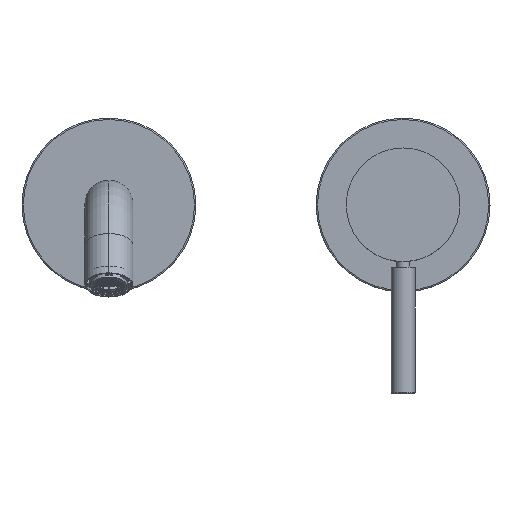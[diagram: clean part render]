
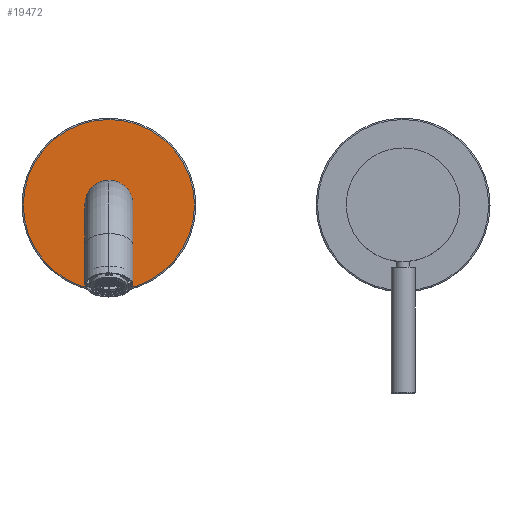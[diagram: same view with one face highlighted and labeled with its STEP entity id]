
A CAD part, top view. The second image highlights one B-rep face of the part: STEP entity #19472.
In plain terms, the highlighted planar face has unit normal (0, 0, 1).
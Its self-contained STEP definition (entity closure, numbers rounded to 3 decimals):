
#7089=CARTESIAN_POINT('',(-110.,0.,15.2));
#7090=DIRECTION('',(0.,0.,-1.));
#7091=DIRECTION('',(0.,-1.,0.));
#7092=AXIS2_PLACEMENT_3D('',#7089,#7090,#7091);
#7103=CARTESIAN_POINT('',(-110.,0.,15.2));
#7104=DIRECTION('',(0.,0.,-1.));
#7105=DIRECTION('',(-1.,0.,0.));
#7106=AXIS2_PLACEMENT_3D('',#7103,#7104,#7105);
#7108=CARTESIAN_POINT('',(-110.,0.,15.2));
#7109=DIRECTION('',(0.,0.,-1.));
#7110=DIRECTION('',(1.,0.,0.));
#7111=AXIS2_PLACEMENT_3D('',#7108,#7109,#7110);
#7113=CARTESIAN_POINT('',(-110.,0.,15.2));
#7114=DIRECTION('',(0.,0.,-1.));
#7115=DIRECTION('',(0.,1.,0.));
#7116=AXIS2_PLACEMENT_3D('',#7113,#7114,#7115);
#7231=CARTESIAN_POINT('',(-142.,0.,15.2));
#7232=CARTESIAN_POINT('',(-78.,0.,15.2));
#7233=VERTEX_POINT('',#7231);
#7234=VERTEX_POINT('',#7232);
#8086=CARTESIAN_POINT('',(-110.,-9.,15.2));
#8087=CARTESIAN_POINT('',(-110.,9.,15.2));
#8088=VERTEX_POINT('',#8086);
#8089=VERTEX_POINT('',#8087);
#19456=CARTESIAN_POINT('',(-110.,0.,15.2));
#19457=DIRECTION('',(0.,0.,1.));
#19458=DIRECTION('',(1.,0.,0.));
#19459=AXIS2_PLACEMENT_3D('',#19456,#19457,#19458);
#19460=PLANE('',#19459);
#19462=ORIENTED_EDGE('',*,*,#19461,.T.);
#19464=ORIENTED_EDGE('',*,*,#19463,.T.);
#19465=EDGE_LOOP('',(#19462,#19464));
#19466=FACE_OUTER_BOUND('',#19465,.F.);
#19467=ORIENTED_EDGE('',*,*,#19439,.F.);
#19469=ORIENTED_EDGE('',*,*,#19468,.F.);
#19470=EDGE_LOOP('',(#19467,#19469));
#19471=FACE_BOUND('',#19470,.F.);
#7093=CIRCLE('',#7092,9.);
#7107=CIRCLE('',#7106,32.);
#7112=CIRCLE('',#7111,32.);
#7117=CIRCLE('',#7116,9.);
#19439=EDGE_CURVE('',#8088,#8089,#7093,.T.);
#19461=EDGE_CURVE('',#7233,#7234,#7107,.T.);
#19463=EDGE_CURVE('',#7234,#7233,#7112,.T.);
#19468=EDGE_CURVE('',#8089,#8088,#7117,.T.);
#19472=ADVANCED_FACE('',(#19466,#19471),#19460,.T.);
